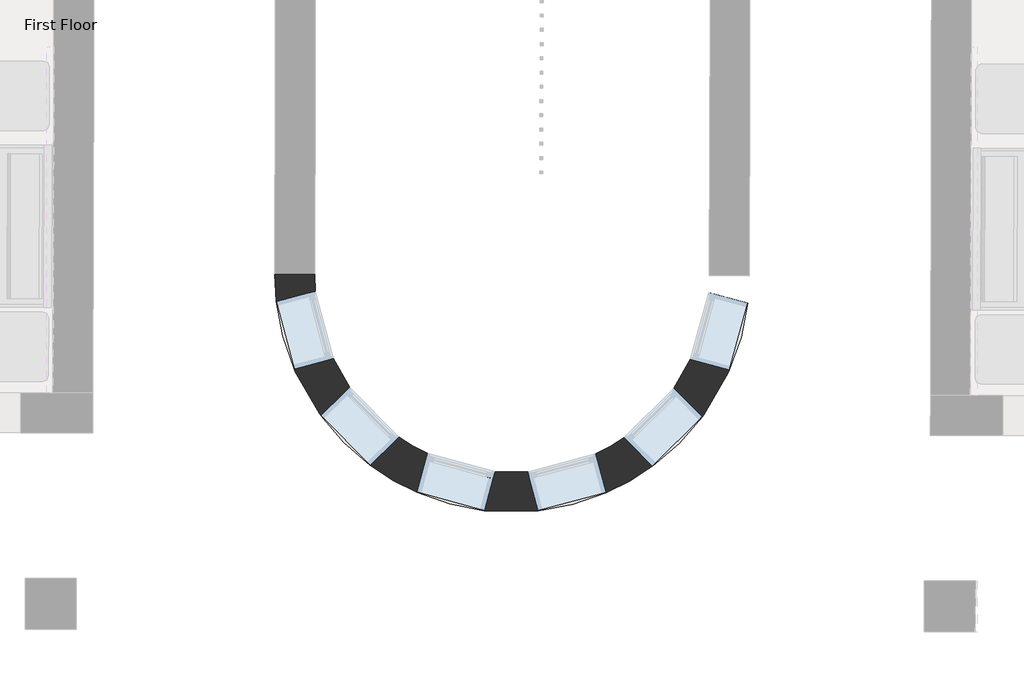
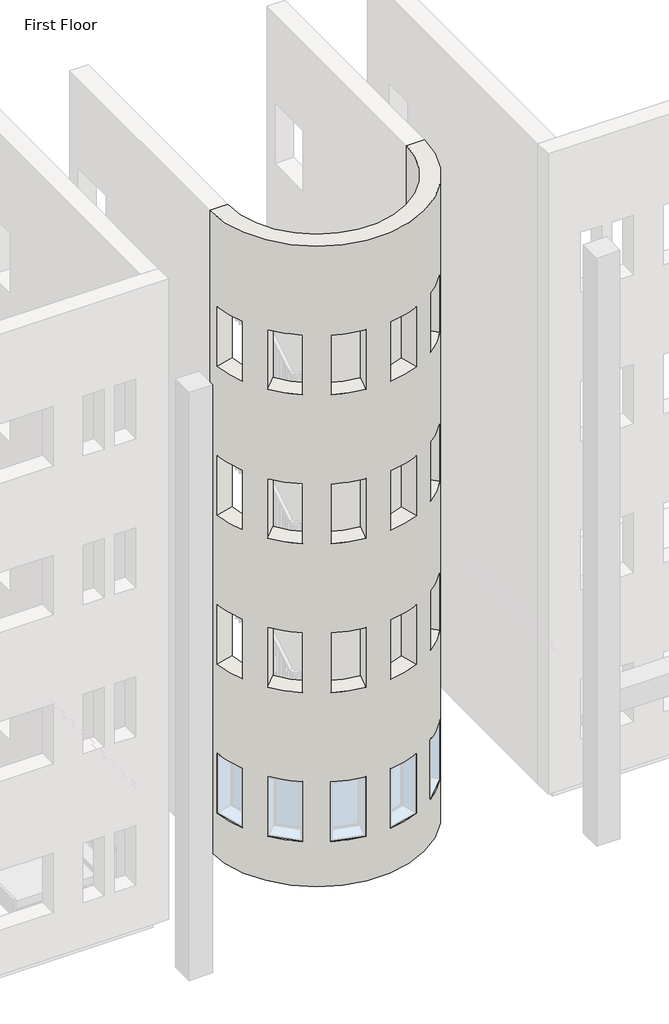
# One storey, part 2 of 23: 1 wall.
"""IFC4 building model written with IfcOpenShell, lengths in millimetres."""

from ifc_helpers import new_model, si_unit, frame, origin, place, context, project, spatial, polyline, circle_curve, element, save
from ifc_brep_helpers import plane_surface, cylinder_surface, revolved_surface, advanced_brep

model = new_model("IFC4")

# Units and contexts
model_context = context("Model", 3, world=origin())
ifc_project = project(units=[si_unit("LENGTHUNIT", "METRE", prefix="MILLI")], contexts=[model_context])

# Site, building, storey
site = spatial("IfcSite", under=ifc_project)
building = spatial("IfcBuilding", under=site)
storey = spatial("IfcBuildingStorey", under=building, Name="First Floor", Elevation=0.0)

# Wall
placement = place(None, origin())
element("IfcWall", 1, ObjectType="Exterior - Brick on Mtl. Stud", at=placement, inside=storey, context=model_context, shape_type="AdvancedBrep", body=[
    advanced_brep(
    [(-17288.0272981, -40737.1040895, 13107.0), (-20748.0128004, -40727.087895, 13107.0), (-21098.0113339, -40726.0746961, 13107.0), (-16938.0287647, -40738.1172884, 13107.0), (-20748.0128004, -40727.087895, 0.0), (-17288.0272981, -40737.1040895, 0.0), (-16938.0287647, -40738.1172884, 0.0), (-21098.0113339, -40726.0746961, 0.0), (-20586.0793709, -41462.9105815, 915.0), (-20586.0793709, -41462.9105815, 2135.0), (-20742.2526362, -40873.2412579, 2135.0), (-20742.2526362, -40873.2412579, 915.0), (-19169.1457103, -42455.482494, 915.0), (-19169.1457103, -42455.482494, 2135.0), (-19757.9009571, -42295.8978474, 2135.0), (-19757.9009571, -42295.8978474, 915.0), (-20010.5919618, -42149.0296528, 915.0), (-20010.5919618, -42149.0296528, 2135.0), (-20440.6766388, -41716.4476714, 2135.0), (-20440.6766388, -41716.4476714, 915.0), (-18033.6683701, -42154.7525818, 915.0), (-17601.0863887, -41724.6679048, 915.0), (-17601.0863887, -41724.6679048, 2135.0), (-18033.6683701, -42154.7525818, 2135.0), (-18876.8747836, -42456.3285792, 915.0), (-18287.20546, -42300.1553139, 915.0), (-18287.20546, -42300.1553139, 2135.0), (-18876.8747836, -42456.3285792, 2135.0), (-17454.2181941, -41471.9769001, 915.0), (-17294.6335475, -40883.2216533, 915.0), (-17294.6335475, -40883.2216533, 2135.0), (-17454.2181941, -41471.9769001, 2135.0), (-18033.6683701, -42154.7525818, 10059.0), (-17601.0863887, -41724.6679048, 10059.0), (-17601.0863887, -41724.6679048, 11279.0), (-18033.6683701, -42154.7525818, 11279.0), (-18876.8747836, -42456.3285792, 10059.0), (-18287.20546, -42300.1553139, 10059.0), (-18287.20546, -42300.1553139, 11279.0), (-18876.8747836, -42456.3285792, 11279.0), (-17454.2181941, -41471.9769001, 10059.0), (-17294.6335475, -40883.2216533, 10059.0), (-17294.6335475, -40883.2216533, 11279.0), (-17454.2181941, -41471.9769001, 11279.0), (-20010.5919618, -42149.0296528, 10059.0), (-20010.5919618, -42149.0296528, 11279.0), (-20440.6766388, -41716.4476714, 11279.0), (-20440.6766388, -41716.4476714, 10059.0), (-19169.1457103, -42455.482494, 10059.0), (-19169.1457103, -42455.482494, 11279.0), (-19757.9009571, -42295.8978474, 11279.0), (-19757.9009571, -42295.8978474, 10059.0), (-20586.0793709, -41462.9105815, 10059.0), (-20586.0793709, -41462.9105815, 11279.0), (-20742.2526362, -40873.2412579, 11279.0), (-20742.2526362, -40873.2412579, 10059.0), (-18033.6683701, -42154.7525818, 3963.0), (-17601.0863887, -41724.6679048, 3963.0), (-17601.0863887, -41724.6679048, 5183.0), (-18033.6683701, -42154.7525818, 5183.0), (-18876.8747836, -42456.3285792, 3963.0), (-18287.20546, -42300.1553139, 3963.0), (-18287.20546, -42300.1553139, 5183.0), (-18876.8747836, -42456.3285792, 5183.0), (-17454.2181941, -41471.9769001, 3963.0), (-17294.6335475, -40883.2216533, 3963.0), (-17294.6335475, -40883.2216533, 5183.0), (-17454.2181941, -41471.9769001, 5183.0), (-20010.5919618, -42149.0296528, 3963.0), (-20010.5919618, -42149.0296528, 5183.0), (-20440.6766388, -41716.4476714, 5183.0), (-20440.6766388, -41716.4476714, 3963.0), (-19169.1457103, -42455.482494, 3963.0), (-19169.1457103, -42455.482494, 5183.0), (-19757.9009571, -42295.8978474, 5183.0), (-19757.9009571, -42295.8978474, 3963.0), (-20586.0793709, -41462.9105815, 3963.0), (-20586.0793709, -41462.9105815, 5183.0), (-20742.2526362, -40873.2412579, 5183.0), (-20742.2526362, -40873.2412579, 3963.0), (-18033.6683701, -42154.7525818, 7011.0), (-17601.0863887, -41724.6679048, 7011.0), (-17601.0863887, -41724.6679048, 8231.0), (-18033.6683701, -42154.7525818, 8231.0), (-18876.8747836, -42456.3285792, 7011.0), (-18287.20546, -42300.1553139, 7011.0), (-18287.20546, -42300.1553139, 8231.0), (-18876.8747836, -42456.3285792, 8231.0), (-17454.2181941, -41471.9769001, 7011.0), (-17294.6335475, -40883.2216533, 7011.0), (-17294.6335475, -40883.2216533, 8231.0), (-17454.2181941, -41471.9769001, 8231.0), (-20010.5919618, -42149.0296528, 7011.0), (-20010.5919618, -42149.0296528, 8231.0), (-20440.6766388, -41716.4476714, 8231.0), (-20440.6766388, -41716.4476714, 7011.0), (-19169.1457103, -42455.482494, 7011.0), (-19169.1457103, -42455.482494, 8231.0), (-19757.9009571, -42295.8978474, 8231.0), (-19757.9009571, -42295.8978474, 7011.0), (-20586.0793709, -41462.9105815, 7011.0), (-20586.0793709, -41462.9105815, 8231.0), (-20742.2526362, -40873.2412579, 8231.0), (-20742.2526362, -40873.2412579, 7011.0), (-20928.8751952, -41553.6996748, 2135.0), (-20928.8751952, -41553.6996748, 915.0), (-21085.0484606, -40964.0303512, 915.0), (-21085.0484606, -40964.0303512, 2135.0), (-19261.9179613, -42797.7469329, 2135.0), (-19261.9179613, -42797.7469329, 915.0), (-19850.6732081, -42638.1622862, 915.0), (-19850.6732081, -42638.1622862, 2135.0), (-20262.0673073, -42399.0532261, 915.0), (-20692.1519843, -41966.4712447, 915.0), (-20692.1519843, -41966.4712447, 2135.0), (-20262.0673073, -42399.0532261, 2135.0), (-17783.6447968, -42406.2279273, 915.0), (-17783.6447968, -42406.2279273, 2135.0), (-17351.0628154, -41976.1432503, 2135.0), (-17351.0628154, -41976.1432503, 915.0), (-18786.0856903, -42799.1244036, 915.0), (-18786.0856903, -42799.1244036, 2135.0), (-18196.4163667, -42642.9511382, 2135.0), (-18196.4163667, -42642.9511382, 915.0), (-17111.9537553, -41564.749151, 915.0), (-17111.9537553, -41564.749151, 2135.0), (-16952.3691086, -40975.9939043, 2135.0), (-16952.3691086, -40975.9939043, 915.0), (-17783.6447968, -42406.2279273, 10059.0), (-17783.6447968, -42406.2279273, 11279.0), (-17351.0628154, -41976.1432503, 11279.0), (-17351.0628154, -41976.1432503, 10059.0), (-18786.0856903, -42799.1244036, 10059.0), (-18786.0856903, -42799.1244036, 11279.0), (-18196.4163667, -42642.9511382, 11279.0), (-18196.4163667, -42642.9511382, 10059.0), (-17111.9537553, -41564.749151, 10059.0), (-17111.9537553, -41564.749151, 11279.0), (-16952.3691086, -40975.9939043, 11279.0), (-16952.3691086, -40975.9939043, 10059.0), (-20262.0673073, -42399.0532261, 10059.0), (-20692.1519843, -41966.4712447, 10059.0), (-20692.1519843, -41966.4712447, 11279.0), (-20262.0673073, -42399.0532261, 11279.0), (-19261.9179613, -42797.7469329, 10059.0), (-19850.6732081, -42638.1622862, 10059.0), (-19850.6732081, -42638.1622862, 11279.0), (-19261.9179613, -42797.7469329, 11279.0), (-20928.8751952, -41553.6996748, 10059.0), (-21085.0484606, -40964.0303512, 10059.0), (-21085.0484606, -40964.0303512, 11279.0), (-20928.8751952, -41553.6996748, 11279.0), (-17783.6447968, -42406.2279273, 3963.0), (-17783.6447968, -42406.2279273, 5183.0), (-17351.0628154, -41976.1432503, 5183.0), (-17351.0628154, -41976.1432503, 3963.0), (-18786.0856903, -42799.1244036, 3963.0), (-18786.0856903, -42799.1244036, 5183.0), (-18196.4163667, -42642.9511382, 5183.0), (-18196.4163667, -42642.9511382, 3963.0), (-17111.9537553, -41564.749151, 3963.0), (-17111.9537553, -41564.749151, 5183.0), (-16952.3691086, -40975.9939043, 5183.0), (-16952.3691086, -40975.9939043, 3963.0), (-20262.0673073, -42399.0532261, 3963.0), (-20692.1519843, -41966.4712447, 3963.0), (-20692.1519843, -41966.4712447, 5183.0), (-20262.0673073, -42399.0532261, 5183.0), (-19261.9179613, -42797.7469329, 3963.0), (-19850.6732081, -42638.1622862, 3963.0), (-19850.6732081, -42638.1622862, 5183.0), (-19261.9179613, -42797.7469329, 5183.0), (-20928.8751952, -41553.6996748, 3963.0), (-21085.0484606, -40964.0303512, 3963.0), (-21085.0484606, -40964.0303512, 5183.0), (-20928.8751952, -41553.6996748, 5183.0), (-17783.6447968, -42406.2279273, 7011.0), (-17783.6447968, -42406.2279273, 8231.0), (-17351.0628154, -41976.1432503, 8231.0), (-17351.0628154, -41976.1432503, 7011.0), (-18786.0856903, -42799.1244036, 7011.0), (-18786.0856903, -42799.1244036, 8231.0), (-18196.4163667, -42642.9511382, 8231.0), (-18196.4163667, -42642.9511382, 7011.0), (-17111.9537553, -41564.749151, 7011.0), (-17111.9537553, -41564.749151, 8231.0), (-16952.3691086, -40975.9939043, 8231.0), (-16952.3691086, -40975.9939043, 7011.0), (-20262.0673073, -42399.0532261, 7011.0), (-20692.1519843, -41966.4712447, 7011.0), (-20692.1519843, -41966.4712447, 8231.0), (-20262.0673073, -42399.0532261, 8231.0), (-19261.9179613, -42797.7469329, 7011.0), (-19850.6732081, -42638.1622862, 7011.0), (-19850.6732081, -42638.1622862, 8231.0), (-19261.9179613, -42797.7469329, 8231.0), (-20928.8751952, -41553.6996748, 7011.0), (-21085.0484606, -40964.0303512, 7011.0), (-21085.0484606, -40964.0303512, 8231.0), (-20928.8751952, -41553.6996748, 8231.0)],
    [
        (0, 1, circle_curve(frame((-19018.0200493, -40732.0959922, 13107.0), z_axis=(0.0, 0.0, -1.0), x_axis=(0.9999958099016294, -0.0028948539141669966, 0.0)), 1730.0)),
        (1, 2),
        (2, 3, circle_curve(frame((-19018.0200493, -40732.0959922, 13107.0), z_axis=(0.0, 0.0, 1.0), x_axis=(0.9999958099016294, -0.0028948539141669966, 0.0)), 2080.0)),
        (3, 0),
        (4, 5, circle_curve(frame((-19018.0200493, -40732.0959922, 0.0), z_axis=(0.0, 0.0, 1.0), x_axis=(0.9999958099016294, -0.0028948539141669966, 0.0)), 1730.0)),
        (5, 6),
        (6, 7, circle_curve(frame((-19018.0200493, -40732.0959922, 0.0), z_axis=(0.0, 0.0, -1.0), x_axis=(0.9999958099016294, -0.0028948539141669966, 0.0)), 2080.0)),
        (7, 4),
        (0, 5),
        (4, 1),
        (8, 9),
        (9, 10, circle_curve(frame((-19018.0200493, -40732.0959922, 2135.0), z_axis=(0.0, 0.0, -1.0), x_axis=(0.9999958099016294, -0.0028948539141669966, 0.0)), 1730.0)),
        (10, 11),
        (11, 8, circle_curve(frame((-19018.0200493, -40732.0959922, 915.0), z_axis=(0.0, 0.0, 1.0), x_axis=(0.9999958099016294, -0.0028948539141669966, 0.0)), 1730.0)),
        (12, 13),
        (13, 14, circle_curve(frame((-19018.0200493, -40732.0959922, 2135.0), z_axis=(0.0, 0.0, -1.0), x_axis=(0.9999958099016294, -0.0028948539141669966, 0.0)), 1730.0)),
        (14, 15),
        (15, 12, circle_curve(frame((-19018.0200493, -40732.0959922, 915.0), z_axis=(0.0, 0.0, 1.0), x_axis=(0.9999958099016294, -0.0028948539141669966, 0.0)), 1730.0)),
        (16, 17),
        (17, 18, circle_curve(frame((-19018.0200493, -40732.0959922, 2135.0), z_axis=(0.0, 0.0, -1.0), x_axis=(0.9999958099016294, -0.0028948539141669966, 0.0)), 1730.0)),
        (18, 19),
        (19, 16, circle_curve(frame((-19018.0200493, -40732.0959922, 915.0), z_axis=(0.0, 0.0, 1.0), x_axis=(0.9999958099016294, -0.0028948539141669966, 0.0)), 1730.0)),
        (20, 21, circle_curve(frame((-19018.0200493, -40732.0959922, 915.0), z_axis=(0.0, 0.0, 1.0), x_axis=(0.9999958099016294, -0.0028948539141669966, 0.0)), 1730.0)),
        (21, 22),
        (22, 23, circle_curve(frame((-19018.0200493, -40732.0959922, 2135.0), z_axis=(0.0, 0.0, -1.0), x_axis=(0.9999958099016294, -0.0028948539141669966, 0.0)), 1730.0)),
        (23, 20),
        (24, 25, circle_curve(frame((-19018.0200493, -40732.0959922, 915.0), z_axis=(0.0, 0.0, 1.0), x_axis=(0.9999958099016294, -0.0028948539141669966, 0.0)), 1730.0)),
        (25, 26),
        (26, 27, circle_curve(frame((-19018.0200493, -40732.0959922, 2135.0), z_axis=(0.0, 0.0, -1.0), x_axis=(0.9999958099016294, -0.0028948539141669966, 0.0)), 1730.0)),
        (27, 24),
        (28, 29, circle_curve(frame((-19018.0200493, -40732.0959922, 915.0), z_axis=(0.0, 0.0, 1.0), x_axis=(0.9999958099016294, -0.0028948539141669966, 0.0)), 1730.0)),
        (29, 30),
        (30, 31, circle_curve(frame((-19018.0200493, -40732.0959922, 2135.0), z_axis=(0.0, 0.0, -1.0), x_axis=(0.9999958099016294, -0.0028948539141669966, 0.0)), 1730.0)),
        (31, 28),
        (32, 33, circle_curve(frame((-19018.0200493, -40732.0959922, 10059.0), z_axis=(0.0, 0.0, 1.0), x_axis=(0.9999958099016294, -0.0028948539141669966, 0.0)), 1730.0)),
        (33, 34),
        (34, 35, circle_curve(frame((-19018.0200493, -40732.0959922, 11279.0), z_axis=(0.0, 0.0, -1.0), x_axis=(0.9999958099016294, -0.0028948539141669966, 0.0)), 1730.0)),
        (35, 32),
        (36, 37, circle_curve(frame((-19018.0200493, -40732.0959922, 10059.0), z_axis=(0.0, 0.0, 1.0), x_axis=(0.9999958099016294, -0.0028948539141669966, 0.0)), 1730.0)),
        (37, 38),
        (38, 39, circle_curve(frame((-19018.0200493, -40732.0959922, 11279.0), z_axis=(0.0, 0.0, -1.0), x_axis=(0.9999958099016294, -0.0028948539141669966, 0.0)), 1730.0)),
        (39, 36),
        (40, 41, circle_curve(frame((-19018.0200493, -40732.0959922, 10059.0), z_axis=(0.0, 0.0, 1.0), x_axis=(0.9999958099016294, -0.0028948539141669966, 0.0)), 1730.0)),
        (41, 42),
        (42, 43, circle_curve(frame((-19018.0200493, -40732.0959922, 11279.0), z_axis=(0.0, 0.0, -1.0), x_axis=(0.9999958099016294, -0.0028948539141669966, 0.0)), 1730.0)),
        (43, 40),
        (44, 45),
        (45, 46, circle_curve(frame((-19018.0200493, -40732.0959922, 11279.0), z_axis=(0.0, 0.0, -1.0), x_axis=(0.9999958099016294, -0.0028948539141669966, 0.0)), 1730.0)),
        (46, 47),
        (47, 44, circle_curve(frame((-19018.0200493, -40732.0959922, 10059.0), z_axis=(0.0, 0.0, 1.0), x_axis=(0.9999958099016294, -0.0028948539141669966, 0.0)), 1730.0)),
        (48, 49),
        (49, 50, circle_curve(frame((-19018.0200493, -40732.0959922, 11279.0), z_axis=(0.0, 0.0, -1.0), x_axis=(0.9999958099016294, -0.0028948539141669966, 0.0)), 1730.0)),
        (50, 51),
        (51, 48, circle_curve(frame((-19018.0200493, -40732.0959922, 10059.0), z_axis=(0.0, 0.0, 1.0), x_axis=(0.9999958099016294, -0.0028948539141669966, 0.0)), 1730.0)),
        (52, 53),
        (53, 54, circle_curve(frame((-19018.0200493, -40732.0959922, 11279.0), z_axis=(0.0, 0.0, -1.0), x_axis=(0.9999958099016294, -0.0028948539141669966, 0.0)), 1730.0)),
        (54, 55),
        (55, 52, circle_curve(frame((-19018.0200493, -40732.0959922, 10059.0), z_axis=(0.0, 0.0, 1.0), x_axis=(0.9999958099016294, -0.0028948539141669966, 0.0)), 1730.0)),
        (56, 57, circle_curve(frame((-19018.0200493, -40732.0959922, 3963.0), z_axis=(0.0, 0.0, 1.0), x_axis=(0.9999958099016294, -0.0028948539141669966, 0.0)), 1730.0)),
        (57, 58),
        (58, 59, circle_curve(frame((-19018.0200493, -40732.0959922, 5183.0), z_axis=(0.0, 0.0, -1.0), x_axis=(0.9999958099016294, -0.0028948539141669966, 0.0)), 1730.0)),
        (59, 56),
        (60, 61, circle_curve(frame((-19018.0200493, -40732.0959922, 3963.0), z_axis=(0.0, 0.0, 1.0), x_axis=(0.9999958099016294, -0.0028948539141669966, 0.0)), 1730.0)),
        (61, 62),
        (62, 63, circle_curve(frame((-19018.0200493, -40732.0959922, 5183.0), z_axis=(0.0, 0.0, -1.0), x_axis=(0.9999958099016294, -0.0028948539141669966, 0.0)), 1730.0)),
        (63, 60),
        (64, 65, circle_curve(frame((-19018.0200493, -40732.0959922, 3963.0), z_axis=(0.0, 0.0, 1.0), x_axis=(0.9999958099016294, -0.0028948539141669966, 0.0)), 1730.0)),
        (65, 66),
        (66, 67, circle_curve(frame((-19018.0200493, -40732.0959922, 5183.0), z_axis=(0.0, 0.0, -1.0), x_axis=(0.9999958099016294, -0.0028948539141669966, 0.0)), 1730.0)),
        (67, 64),
        (68, 69),
        (69, 70, circle_curve(frame((-19018.0200493, -40732.0959922, 5183.0), z_axis=(0.0, 0.0, -1.0), x_axis=(0.9999958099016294, -0.0028948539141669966, 0.0)), 1730.0)),
        (70, 71),
        (71, 68, circle_curve(frame((-19018.0200493, -40732.0959922, 3963.0), z_axis=(0.0, 0.0, 1.0), x_axis=(0.9999958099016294, -0.0028948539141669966, 0.0)), 1730.0)),
        (72, 73),
        (73, 74, circle_curve(frame((-19018.0200493, -40732.0959922, 5183.0), z_axis=(0.0, 0.0, -1.0), x_axis=(0.9999958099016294, -0.0028948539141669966, 0.0)), 1730.0)),
        (74, 75),
        (75, 72, circle_curve(frame((-19018.0200493, -40732.0959922, 3963.0), z_axis=(0.0, 0.0, 1.0), x_axis=(0.9999958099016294, -0.0028948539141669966, 0.0)), 1730.0)),
        (76, 77),
        (77, 78, circle_curve(frame((-19018.0200493, -40732.0959922, 5183.0), z_axis=(0.0, 0.0, -1.0), x_axis=(0.9999958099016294, -0.0028948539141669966, 0.0)), 1730.0)),
        (78, 79),
        (79, 76, circle_curve(frame((-19018.0200493, -40732.0959922, 3963.0), z_axis=(0.0, 0.0, 1.0), x_axis=(0.9999958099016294, -0.0028948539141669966, 0.0)), 1730.0)),
        (80, 81, circle_curve(frame((-19018.0200493, -40732.0959922, 7011.0), z_axis=(0.0, 0.0, 1.0), x_axis=(0.9999958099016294, -0.0028948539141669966, 0.0)), 1730.0)),
        (81, 82),
        (82, 83, circle_curve(frame((-19018.0200493, -40732.0959922, 8231.0), z_axis=(0.0, 0.0, -1.0), x_axis=(0.9999958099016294, -0.0028948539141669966, 0.0)), 1730.0)),
        (83, 80),
        (84, 85, circle_curve(frame((-19018.0200493, -40732.0959922, 7011.0), z_axis=(0.0, 0.0, 1.0), x_axis=(0.9999958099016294, -0.0028948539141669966, 0.0)), 1730.0)),
        (85, 86),
        (86, 87, circle_curve(frame((-19018.0200493, -40732.0959922, 8231.0), z_axis=(0.0, 0.0, -1.0), x_axis=(0.9999958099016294, -0.0028948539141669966, 0.0)), 1730.0)),
        (87, 84),
        (88, 89, circle_curve(frame((-19018.0200493, -40732.0959922, 7011.0), z_axis=(0.0, 0.0, 1.0), x_axis=(0.9999958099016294, -0.0028948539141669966, 0.0)), 1730.0)),
        (89, 90),
        (90, 91, circle_curve(frame((-19018.0200493, -40732.0959922, 8231.0), z_axis=(0.0, 0.0, -1.0), x_axis=(0.9999958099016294, -0.0028948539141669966, 0.0)), 1730.0)),
        (91, 88),
        (92, 93),
        (93, 94, circle_curve(frame((-19018.0200493, -40732.0959922, 8231.0), z_axis=(0.0, 0.0, -1.0), x_axis=(0.9999958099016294, -0.0028948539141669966, 0.0)), 1730.0)),
        (94, 95),
        (95, 92, circle_curve(frame((-19018.0200493, -40732.0959922, 7011.0), z_axis=(0.0, 0.0, 1.0), x_axis=(0.9999958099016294, -0.0028948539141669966, 0.0)), 1730.0)),
        (96, 97),
        (97, 98, circle_curve(frame((-19018.0200493, -40732.0959922, 8231.0), z_axis=(0.0, 0.0, -1.0), x_axis=(0.9999958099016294, -0.0028948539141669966, 0.0)), 1730.0)),
        (98, 99),
        (99, 96, circle_curve(frame((-19018.0200493, -40732.0959922, 7011.0), z_axis=(0.0, 0.0, 1.0), x_axis=(0.9999958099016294, -0.0028948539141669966, 0.0)), 1730.0)),
        (100, 101),
        (101, 102, circle_curve(frame((-19018.0200493, -40732.0959922, 8231.0), z_axis=(0.0, 0.0, -1.0), x_axis=(0.9999958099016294, -0.0028948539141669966, 0.0)), 1730.0)),
        (102, 103),
        (103, 100, circle_curve(frame((-19018.0200493, -40732.0959922, 7011.0), z_axis=(0.0, 0.0, 1.0), x_axis=(0.9999958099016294, -0.0028948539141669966, 0.0)), 1730.0)),
        (7, 2),
        (6, 3),
        (104, 105),
        (105, 106, circle_curve(frame((-19018.0200493, -40732.0959922, 915.0), z_axis=(0.0, 0.0, -1.0), x_axis=(0.9999958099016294, -0.0028948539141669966, 0.0)), 2080.0)),
        (106, 107),
        (107, 104, circle_curve(frame((-19018.0200493, -40732.0959922, 2135.0), z_axis=(0.0, 0.0, 1.0), x_axis=(0.9999958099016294, -0.0028948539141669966, 0.0)), 2080.0)),
        (108, 109),
        (109, 110, circle_curve(frame((-19018.0200493, -40732.0959922, 915.0), z_axis=(0.0, 0.0, -1.0), x_axis=(0.9999958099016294, -0.0028948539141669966, 0.0)), 2080.0)),
        (110, 111),
        (111, 108, circle_curve(frame((-19018.0200493, -40732.0959922, 2135.0), z_axis=(0.0, 0.0, 1.0), x_axis=(0.9999958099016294, -0.0028948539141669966, 0.0)), 2080.0)),
        (112, 113, circle_curve(frame((-19018.0200493, -40732.0959922, 915.0), z_axis=(0.0, 0.0, -1.0), x_axis=(0.9999958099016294, -0.0028948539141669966, 0.0)), 2080.0)),
        (113, 114),
        (114, 115, circle_curve(frame((-19018.0200493, -40732.0959922, 2135.0), z_axis=(0.0, 0.0, 1.0), x_axis=(0.9999958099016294, -0.0028948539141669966, 0.0)), 2080.0)),
        (115, 112),
        (116, 117),
        (117, 118, circle_curve(frame((-19018.0200493, -40732.0959922, 2135.0), z_axis=(0.0, 0.0, 1.0), x_axis=(0.9999958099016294, -0.0028948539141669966, 0.0)), 2080.0)),
        (118, 119),
        (119, 116, circle_curve(frame((-19018.0200493, -40732.0959922, 915.0), z_axis=(0.0, 0.0, -1.0), x_axis=(0.9999958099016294, -0.0028948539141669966, 0.0)), 2080.0)),
        (120, 121),
        (121, 122, circle_curve(frame((-19018.0200493, -40732.0959922, 2135.0), z_axis=(0.0, 0.0, 1.0), x_axis=(0.9999958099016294, -0.0028948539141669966, 0.0)), 2080.0)),
        (122, 123),
        (123, 120, circle_curve(frame((-19018.0200493, -40732.0959922, 915.0), z_axis=(0.0, 0.0, -1.0), x_axis=(0.9999958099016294, -0.0028948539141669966, 0.0)), 2080.0)),
        (124, 125),
        (125, 126, circle_curve(frame((-19018.0200493, -40732.0959922, 2135.0), z_axis=(0.0, 0.0, 1.0), x_axis=(0.9999958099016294, -0.0028948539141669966, 0.0)), 2080.0)),
        (126, 127),
        (127, 124, circle_curve(frame((-19018.0200493, -40732.0959922, 915.0), z_axis=(0.0, 0.0, -1.0), x_axis=(0.9999958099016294, -0.0028948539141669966, 0.0)), 2080.0)),
        (128, 129),
        (129, 130, circle_curve(frame((-19018.0200493, -40732.0959922, 11279.0), z_axis=(0.0, 0.0, 1.0), x_axis=(0.9999958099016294, -0.0028948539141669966, 0.0)), 2080.0)),
        (130, 131),
        (131, 128, circle_curve(frame((-19018.0200493, -40732.0959922, 10059.0), z_axis=(0.0, 0.0, -1.0), x_axis=(0.9999958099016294, -0.0028948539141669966, 0.0)), 2080.0)),
        (132, 133),
        (133, 134, circle_curve(frame((-19018.0200493, -40732.0959922, 11279.0), z_axis=(0.0, 0.0, 1.0), x_axis=(0.9999958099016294, -0.0028948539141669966, 0.0)), 2080.0)),
        (134, 135),
        (135, 132, circle_curve(frame((-19018.0200493, -40732.0959922, 10059.0), z_axis=(0.0, 0.0, -1.0), x_axis=(0.9999958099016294, -0.0028948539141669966, 0.0)), 2080.0)),
        (136, 137),
        (137, 138, circle_curve(frame((-19018.0200493, -40732.0959922, 11279.0), z_axis=(0.0, 0.0, 1.0), x_axis=(0.9999958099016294, -0.0028948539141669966, 0.0)), 2080.0)),
        (138, 139),
        (139, 136, circle_curve(frame((-19018.0200493, -40732.0959922, 10059.0), z_axis=(0.0, 0.0, -1.0), x_axis=(0.9999958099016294, -0.0028948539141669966, 0.0)), 2080.0)),
        (140, 141, circle_curve(frame((-19018.0200493, -40732.0959922, 10059.0), z_axis=(0.0, 0.0, -1.0), x_axis=(0.9999958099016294, -0.0028948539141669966, 0.0)), 2080.0)),
        (141, 142),
        (142, 143, circle_curve(frame((-19018.0200493, -40732.0959922, 11279.0), z_axis=(0.0, 0.0, 1.0), x_axis=(0.9999958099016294, -0.0028948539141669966, 0.0)), 2080.0)),
        (143, 140),
        (144, 145, circle_curve(frame((-19018.0200493, -40732.0959922, 10059.0), z_axis=(0.0, 0.0, -1.0), x_axis=(0.9999958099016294, -0.0028948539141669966, 0.0)), 2080.0)),
        (145, 146),
        (146, 147, circle_curve(frame((-19018.0200493, -40732.0959922, 11279.0), z_axis=(0.0, 0.0, 1.0), x_axis=(0.9999958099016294, -0.0028948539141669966, 0.0)), 2080.0)),
        (147, 144),
        (148, 149, circle_curve(frame((-19018.0200493, -40732.0959922, 10059.0), z_axis=(0.0, 0.0, -1.0), x_axis=(0.9999958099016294, -0.0028948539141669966, 0.0)), 2080.0)),
        (149, 150),
        (150, 151, circle_curve(frame((-19018.0200493, -40732.0959922, 11279.0), z_axis=(0.0, 0.0, 1.0), x_axis=(0.9999958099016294, -0.0028948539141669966, 0.0)), 2080.0)),
        (151, 148),
        (152, 153),
        (153, 154, circle_curve(frame((-19018.0200493, -40732.0959922, 5183.0), z_axis=(0.0, 0.0, 1.0), x_axis=(0.9999958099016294, -0.0028948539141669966, 0.0)), 2080.0)),
        (154, 155),
        (155, 152, circle_curve(frame((-19018.0200493, -40732.0959922, 3963.0), z_axis=(0.0, 0.0, -1.0), x_axis=(0.9999958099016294, -0.0028948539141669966, 0.0)), 2080.0)),
        (156, 157),
        (157, 158, circle_curve(frame((-19018.0200493, -40732.0959922, 5183.0), z_axis=(0.0, 0.0, 1.0), x_axis=(0.9999958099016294, -0.0028948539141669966, 0.0)), 2080.0)),
        (158, 159),
        (159, 156, circle_curve(frame((-19018.0200493, -40732.0959922, 3963.0), z_axis=(0.0, 0.0, -1.0), x_axis=(0.9999958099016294, -0.0028948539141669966, 0.0)), 2080.0)),
        (160, 161),
        (161, 162, circle_curve(frame((-19018.0200493, -40732.0959922, 5183.0), z_axis=(0.0, 0.0, 1.0), x_axis=(0.9999958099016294, -0.0028948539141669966, 0.0)), 2080.0)),
        (162, 163),
        (163, 160, circle_curve(frame((-19018.0200493, -40732.0959922, 3963.0), z_axis=(0.0, 0.0, -1.0), x_axis=(0.9999958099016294, -0.0028948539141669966, 0.0)), 2080.0)),
        (164, 165, circle_curve(frame((-19018.0200493, -40732.0959922, 3963.0), z_axis=(0.0, 0.0, -1.0), x_axis=(0.9999958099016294, -0.0028948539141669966, 0.0)), 2080.0)),
        (165, 166),
        (166, 167, circle_curve(frame((-19018.0200493, -40732.0959922, 5183.0), z_axis=(0.0, 0.0, 1.0), x_axis=(0.9999958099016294, -0.0028948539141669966, 0.0)), 2080.0)),
        (167, 164),
        (168, 169, circle_curve(frame((-19018.0200493, -40732.0959922, 3963.0), z_axis=(0.0, 0.0, -1.0), x_axis=(0.9999958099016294, -0.0028948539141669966, 0.0)), 2080.0)),
        (169, 170),
        (170, 171, circle_curve(frame((-19018.0200493, -40732.0959922, 5183.0), z_axis=(0.0, 0.0, 1.0), x_axis=(0.9999958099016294, -0.0028948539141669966, 0.0)), 2080.0)),
        (171, 168),
        (172, 173, circle_curve(frame((-19018.0200493, -40732.0959922, 3963.0), z_axis=(0.0, 0.0, -1.0), x_axis=(0.9999958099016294, -0.0028948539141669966, 0.0)), 2080.0)),
        (173, 174),
        (174, 175, circle_curve(frame((-19018.0200493, -40732.0959922, 5183.0), z_axis=(0.0, 0.0, 1.0), x_axis=(0.9999958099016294, -0.0028948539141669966, 0.0)), 2080.0)),
        (175, 172),
        (176, 177),
        (177, 178, circle_curve(frame((-19018.0200493, -40732.0959922, 8231.0), z_axis=(0.0, 0.0, 1.0), x_axis=(0.9999958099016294, -0.0028948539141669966, 0.0)), 2080.0)),
        (178, 179),
        (179, 176, circle_curve(frame((-19018.0200493, -40732.0959922, 7011.0), z_axis=(0.0, 0.0, -1.0), x_axis=(0.9999958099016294, -0.0028948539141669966, 0.0)), 2080.0)),
        (180, 181),
        (181, 182, circle_curve(frame((-19018.0200493, -40732.0959922, 8231.0), z_axis=(0.0, 0.0, 1.0), x_axis=(0.9999958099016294, -0.0028948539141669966, 0.0)), 2080.0)),
        (182, 183),
        (183, 180, circle_curve(frame((-19018.0200493, -40732.0959922, 7011.0), z_axis=(0.0, 0.0, -1.0), x_axis=(0.9999958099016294, -0.0028948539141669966, 0.0)), 2080.0)),
        (184, 185),
        (185, 186, circle_curve(frame((-19018.0200493, -40732.0959922, 8231.0), z_axis=(0.0, 0.0, 1.0), x_axis=(0.9999958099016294, -0.0028948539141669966, 0.0)), 2080.0)),
        (186, 187),
        (187, 184, circle_curve(frame((-19018.0200493, -40732.0959922, 7011.0), z_axis=(0.0, 0.0, -1.0), x_axis=(0.9999958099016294, -0.0028948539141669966, 0.0)), 2080.0)),
        (188, 189, circle_curve(frame((-19018.0200493, -40732.0959922, 7011.0), z_axis=(0.0, 0.0, -1.0), x_axis=(0.9999958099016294, -0.0028948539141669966, 0.0)), 2080.0)),
        (189, 190),
        (190, 191, circle_curve(frame((-19018.0200493, -40732.0959922, 8231.0), z_axis=(0.0, 0.0, 1.0), x_axis=(0.9999958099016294, -0.0028948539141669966, 0.0)), 2080.0)),
        (191, 188),
        (192, 193, circle_curve(frame((-19018.0200493, -40732.0959922, 7011.0), z_axis=(0.0, 0.0, -1.0), x_axis=(0.9999958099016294, -0.0028948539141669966, 0.0)), 2080.0)),
        (193, 194),
        (194, 195, circle_curve(frame((-19018.0200493, -40732.0959922, 8231.0), z_axis=(0.0, 0.0, 1.0), x_axis=(0.9999958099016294, -0.0028948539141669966, 0.0)), 2080.0)),
        (195, 192),
        (196, 197, circle_curve(frame((-19018.0200493, -40732.0959922, 7011.0), z_axis=(0.0, 0.0, -1.0), x_axis=(0.9999958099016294, -0.0028948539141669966, 0.0)), 2080.0)),
        (197, 198),
        (198, 199, circle_curve(frame((-19018.0200493, -40732.0959922, 8231.0), z_axis=(0.0, 0.0, 1.0), x_axis=(0.9999958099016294, -0.0028948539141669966, 0.0)), 2080.0)),
        (199, 196),
        (8, 105),
        (104, 9),
        (107, 10),
        (106, 11),
        (12, 109),
        (108, 13),
        (111, 14),
        (110, 15),
        (16, 112),
        (115, 17),
        (114, 18),
        (113, 19),
        (116, 20),
        (23, 117),
        (22, 118),
        (21, 119),
        (120, 24),
        (27, 121),
        (26, 122),
        (25, 123),
        (124, 28),
        (31, 125),
        (30, 126),
        (29, 127),
        (128, 32),
        (35, 129),
        (34, 130),
        (33, 131),
        (132, 36),
        (39, 133),
        (38, 134),
        (37, 135),
        (136, 40),
        (43, 137),
        (42, 138),
        (41, 139),
        (44, 140),
        (143, 45),
        (142, 46),
        (141, 47),
        (48, 144),
        (147, 49),
        (146, 50),
        (145, 51),
        (52, 148),
        (151, 53),
        (150, 54),
        (149, 55),
        (152, 56),
        (59, 153),
        (58, 154),
        (57, 155),
        (156, 60),
        (63, 157),
        (62, 158),
        (61, 159),
        (160, 64),
        (67, 161),
        (66, 162),
        (65, 163),
        (68, 164),
        (167, 69),
        (166, 70),
        (165, 71),
        (72, 168),
        (171, 73),
        (170, 74),
        (169, 75),
        (76, 172),
        (175, 77),
        (174, 78),
        (173, 79),
        (176, 80),
        (83, 177),
        (82, 178),
        (81, 179),
        (180, 84),
        (87, 181),
        (86, 182),
        (85, 183),
        (184, 88),
        (91, 185),
        (90, 186),
        (89, 187),
        (92, 188),
        (191, 93),
        (190, 94),
        (189, 95),
        (96, 192),
        (195, 97),
        (194, 98),
        (193, 99),
        (100, 196),
        (199, 101),
        (198, 102),
        (197, 103),
    ],
    [
        plane_surface(frame((-17288.0272981, -40737.1040895, 13107.0), z_axis=(0.0, 0.0, 1.0000000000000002), x_axis=(-0.0028948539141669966, -0.9999958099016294, 0.0))),
        plane_surface(frame((-17288.0272981, -40737.1040895, 0.0), z_axis=(0.0, 0.0, -1.0000000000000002), x_axis=(0.0028948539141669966, 0.9999958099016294, 0.0))),
        revolved_surface(polyline([(-17288.027298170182, -40737.104089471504, 0.0), (-17288.027298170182, -40737.104089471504, 13107.0)]), (-19018.0200493, -40732.0959922, 0.0), (0.0, 0.0, -1.0)),
        plane_surface(frame((-20748.0128004, -40727.087895, 13107.0), z_axis=(0.0028948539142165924, 0.9999958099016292, 0.0), x_axis=(0.0, 0.0, -1.0))),
        cylinder_surface(frame((-19018.0200493, -40732.0959922, 0.0), z_axis=(0.0, 0.0, 1.0), x_axis=(0.9999958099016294, -0.0028948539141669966, 0.0)), 2080.0),
        plane_surface(frame((-16938.0287647, -40738.1172884, 13107.0), z_axis=(0.0028948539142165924, 0.9999958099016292, 0.0), x_axis=(0.0, 0.0, -1.0))),
        plane_surface(frame((-20586.0793709, -41462.9105815, 915.0), z_axis=(-0.2560217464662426, 0.9666710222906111, 0.0), x_axis=(-0.9666710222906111, -0.2560217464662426, 0.0))),
        plane_surface(frame((-20586.0793709, -41462.9105815, 2135.0), z_axis=(0.0, 0.0, -1.0), x_axis=(-0.9666710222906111, -0.2560217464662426, 0.0))),
        plane_surface(frame((-20742.2526362, -40873.2412579, 2135.0), z_axis=(0.25602174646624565, -0.9666710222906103, 0.0), x_axis=(-0.9666710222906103, -0.25602174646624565, 0.0))),
        plane_surface(frame((-20742.2526362, -40873.2412579, 915.0), z_axis=(0.0, 0.0, 1.0000000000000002), x_axis=(-0.9666710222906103, -0.25602174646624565, 0.0))),
        plane_surface(frame((-19659.4106739, -44264.2158258, 915.0), z_axis=(-0.9651725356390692, 0.26161417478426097, 0.0), x_axis=(0.26161417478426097, 0.9651725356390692, 0.0))),
        plane_surface(frame((-19659.4106739, -44264.2158258, 2135.0), z_axis=(0.0, 0.0, -1.0000000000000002), x_axis=(0.26161417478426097, 0.9651725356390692, 0.0))),
        plane_surface(frame((-20248.1659206, -44104.6311792, 2135.0), z_axis=(0.9651725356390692, -0.26161417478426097, 0.0), x_axis=(0.26161417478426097, 0.9651725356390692, 0.0))),
        plane_surface(frame((-20248.1659206, -44104.6311792, 915.0), z_axis=(0.0, 0.0, 1.0000000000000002), x_axis=(0.26161417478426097, 0.9651725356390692, 0.0))),
        plane_surface(frame((-20010.5919618, -42149.0296528, 915.0), z_axis=(-0.7050568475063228, 0.7091507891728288, 0.0), x_axis=(-0.7091507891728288, -0.7050568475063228, 0.0))),
        plane_surface(frame((-20010.5919618, -42149.0296528, 2135.0), z_axis=(0.0, 0.0, -1.0), x_axis=(-0.709150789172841, -0.7050568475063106, 0.0))),
        plane_surface(frame((-20440.6766388, -41716.4476714, 2135.0), z_axis=(0.7050568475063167, -0.709150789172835, 0.0), x_axis=(-0.709150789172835, -0.7050568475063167, 0.0))),
        plane_surface(frame((-20440.6766388, -41716.4476714, 915.0), z_axis=(0.0, 0.0, 1.0000000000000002), x_axis=(-0.709150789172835, -0.7050568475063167, 0.0))),
        plane_surface(frame((-17783.6447968, -42406.2279273, 915.0), z_axis=(0.7091507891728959, 0.7050568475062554, 0.0), x_axis=(-0.7050568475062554, 0.7091507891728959, 0.0))),
        plane_surface(frame((-17783.6447968, -42406.2279273, 2135.0), z_axis=(0.0, 0.0, -1.0), x_axis=(-0.7050568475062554, 0.7091507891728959, 0.0))),
        plane_surface(frame((-17351.0628154, -41976.1432503, 2135.0), z_axis=(-0.709150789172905, -0.7050568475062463, 0.0), x_axis=(-0.7050568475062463, 0.709150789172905, 0.0))),
        plane_surface(frame((-17351.0628154, -41976.1432503, 915.0), z_axis=(0.0, 0.0, 1.0000000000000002), x_axis=(-0.7050568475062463, 0.709150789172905, 0.0))),
        plane_surface(frame((-18786.0856903, -42799.1244036, 915.0), z_axis=(0.9666710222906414, 0.25602174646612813, 0.0), x_axis=(-0.25602174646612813, 0.9666710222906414, 0.0))),
        plane_surface(frame((-18786.0856903, -42799.1244036, 2135.0), z_axis=(0.0, 0.0, -1.0), x_axis=(-0.25602174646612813, 0.9666710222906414, 0.0))),
        plane_surface(frame((-18196.4163667, -42642.9511382, 2135.0), z_axis=(-0.96667102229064, -0.25602174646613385, 0.0), x_axis=(-0.25602174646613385, 0.96667102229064, 0.0))),
        plane_surface(frame((-18196.4163667, -42642.9511382, 915.0), z_axis=(0.0, 0.0, 1.0000000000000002), x_axis=(-0.25602174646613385, 0.96667102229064, 0.0))),
        plane_surface(frame((-17111.9537553, -41564.749151, 915.0), z_axis=(0.2616141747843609, 0.9651725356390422, 0.0), x_axis=(-0.9651725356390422, 0.2616141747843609, 0.0))),
        plane_surface(frame((-17111.9537553, -41564.749151, 2135.0), z_axis=(0.0, 0.0, -1.0), x_axis=(-0.9651725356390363, 0.26161417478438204, 0.0))),
        plane_surface(frame((-16952.3691086, -40975.9939043, 2135.0), z_axis=(-0.26161417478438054, -0.9651725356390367, 0.0), x_axis=(-0.9651725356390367, 0.26161417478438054, 0.0))),
        plane_surface(frame((-16952.3691086, -40975.9939043, 915.0), z_axis=(0.0, 0.0, 1.0), x_axis=(-0.9651725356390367, 0.26161417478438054, 0.0))),
        plane_surface(frame((-17783.6447968, -42406.2279273, 10059.0), z_axis=(0.709150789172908, 0.7050568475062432, 0.0), x_axis=(-0.7050568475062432, 0.709150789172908, 0.0))),
        plane_surface(frame((-17783.6447968, -42406.2279273, 11279.0), z_axis=(0.0, 0.0, -1.0), x_axis=(-0.7050568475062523, 0.7091507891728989, 0.0))),
        plane_surface(frame((-17351.0628154, -41976.1432503, 11279.0), z_axis=(-0.709150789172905, -0.7050568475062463, 0.0), x_axis=(-0.7050568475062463, 0.709150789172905, 0.0))),
        plane_surface(frame((-17351.0628154, -41976.1432503, 10059.0), z_axis=(0.0, 0.0, 1.0000000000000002), x_axis=(-0.7050568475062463, 0.709150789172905, 0.0))),
        plane_surface(frame((-18786.0856903, -42799.1244036, 10059.0), z_axis=(0.966671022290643, 0.25602174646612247, 0.0), x_axis=(-0.25602174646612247, 0.966671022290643, 0.0))),
        plane_surface(frame((-18786.0856903, -42799.1244036, 11279.0), z_axis=(0.0, 0.0, -1.0000000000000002), x_axis=(-0.25602174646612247, 0.966671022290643, 0.0))),
        plane_surface(frame((-18196.4163667, -42642.9511382, 11279.0), z_axis=(-0.966671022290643, -0.25602174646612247, 0.0), x_axis=(-0.25602174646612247, 0.966671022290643, 0.0))),
        plane_surface(frame((-18196.4163667, -42642.9511382, 10059.0), z_axis=(0.0, 0.0, 1.0000000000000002), x_axis=(-0.25602174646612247, 0.966671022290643, 0.0))),
        plane_surface(frame((-17111.9537553, -41564.749151, 10059.0), z_axis=(0.26161417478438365, 0.9651725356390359, 0.0), x_axis=(-0.9651725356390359, 0.26161417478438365, 0.0))),
        plane_surface(frame((-17111.9537553, -41564.749151, 11279.0), z_axis=(0.0, 0.0, -1.0000000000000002), x_axis=(-0.9651725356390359, 0.26161417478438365, 0.0))),
        plane_surface(frame((-16952.3691086, -40975.9939043, 11279.0), z_axis=(-0.26161417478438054, -0.9651725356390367, 0.0), x_axis=(-0.9651725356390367, 0.26161417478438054, 0.0))),
        plane_surface(frame((-16952.3691086, -40975.9939043, 10059.0), z_axis=(0.0, 0.0, 1.0), x_axis=(-0.9651725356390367, 0.26161417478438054, 0.0))),
        plane_surface(frame((-20010.5919618, -42149.0296528, 10059.0), z_axis=(-0.7050568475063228, 0.7091507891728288, 0.0), x_axis=(-0.7091507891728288, -0.7050568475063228, 0.0))),
        plane_surface(frame((-20010.5919618, -42149.0296528, 11279.0), z_axis=(0.0, 0.0, -1.0), x_axis=(-0.7091507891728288, -0.7050568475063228, 0.0))),
        plane_surface(frame((-20440.6766388, -41716.4476714, 11279.0), z_axis=(0.7050568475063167, -0.709150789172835, 0.0), x_axis=(-0.709150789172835, -0.7050568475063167, 0.0))),
        plane_surface(frame((-20440.6766388, -41716.4476714, 10059.0), z_axis=(0.0, 0.0, 1.0000000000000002), x_axis=(-0.709150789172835, -0.7050568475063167, 0.0))),
        plane_surface(frame((-19169.1457103, -42455.482494, 10059.0), z_axis=(-0.9651725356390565, 0.26161417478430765, 0.0), x_axis=(-0.26161417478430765, -0.9651725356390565, 0.0))),
        plane_surface(frame((-19169.1457103, -42455.482494, 11279.0), z_axis=(0.0, 0.0, -1.0000000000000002), x_axis=(-0.261614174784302, -0.9651725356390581, 0.0))),
        plane_surface(frame((-19757.9009571, -42295.8978474, 11279.0), z_axis=(0.9651725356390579, -0.26161417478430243, 0.0), x_axis=(-0.26161417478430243, -0.9651725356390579, 0.0))),
        plane_surface(frame((-19757.9009571, -42295.8978474, 10059.0), z_axis=(0.0, 0.0, 1.0), x_axis=(-0.26161417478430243, -0.9651725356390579, 0.0))),
        plane_surface(frame((-20586.0793709, -41462.9105815, 10059.0), z_axis=(-0.2560217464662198, 0.9666710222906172, 0.0), x_axis=(-0.9666710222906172, -0.2560217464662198, 0.0))),
        plane_surface(frame((-20586.0793709, -41462.9105815, 11279.0), z_axis=(0.0, 0.0, -1.0000000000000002), x_axis=(-0.9666710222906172, -0.2560217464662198, 0.0))),
        plane_surface(frame((-20742.2526362, -40873.2412579, 11279.0), z_axis=(0.2560217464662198, -0.9666710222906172, 0.0), x_axis=(-0.9666710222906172, -0.2560217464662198, 0.0))),
        plane_surface(frame((-20742.2526362, -40873.2412579, 10059.0), z_axis=(0.0, 0.0, 1.0000000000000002), x_axis=(-0.9666710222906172, -0.2560217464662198, 0.0))),
        plane_surface(frame((-17783.6447968, -42406.2279273, 3963.0), z_axis=(0.709150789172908, 0.7050568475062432, 0.0), x_axis=(-0.7050568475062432, 0.709150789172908, 0.0))),
        plane_surface(frame((-17783.6447968, -42406.2279273, 5183.0), z_axis=(0.0, 0.0, -1.0), x_axis=(-0.7050568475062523, 0.7091507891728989, 0.0))),
        plane_surface(frame((-17351.0628154, -41976.1432503, 5183.0), z_axis=(-0.709150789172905, -0.7050568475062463, 0.0), x_axis=(-0.7050568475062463, 0.709150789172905, 0.0))),
        plane_surface(frame((-17351.0628154, -41976.1432503, 3963.0), z_axis=(0.0, 0.0, 1.0000000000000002), x_axis=(-0.7050568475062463, 0.709150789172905, 0.0))),
        plane_surface(frame((-18786.0856903, -42799.1244036, 3963.0), z_axis=(0.966671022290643, 0.25602174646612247, 0.0), x_axis=(-0.25602174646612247, 0.966671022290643, 0.0))),
        plane_surface(frame((-18786.0856903, -42799.1244036, 5183.0), z_axis=(0.0, 0.0, -1.0000000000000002), x_axis=(-0.25602174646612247, 0.966671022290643, 0.0))),
        plane_surface(frame((-18196.4163667, -42642.9511382, 5183.0), z_axis=(-0.966671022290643, -0.25602174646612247, 0.0), x_axis=(-0.25602174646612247, 0.966671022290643, 0.0))),
        plane_surface(frame((-18196.4163667, -42642.9511382, 3963.0), z_axis=(0.0, 0.0, 1.0000000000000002), x_axis=(-0.25602174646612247, 0.966671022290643, 0.0))),
        plane_surface(frame((-17111.9537553, -41564.749151, 3963.0), z_axis=(0.26161417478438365, 0.9651725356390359, 0.0), x_axis=(-0.9651725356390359, 0.26161417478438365, 0.0))),
        plane_surface(frame((-17111.9537553, -41564.749151, 5183.0), z_axis=(0.0, 0.0, -1.0000000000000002), x_axis=(-0.9651725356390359, 0.26161417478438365, 0.0))),
        plane_surface(frame((-16952.3691086, -40975.9939043, 5183.0), z_axis=(-0.26161417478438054, -0.9651725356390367, 0.0), x_axis=(-0.9651725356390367, 0.26161417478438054, 0.0))),
        plane_surface(frame((-16952.3691086, -40975.9939043, 3963.0), z_axis=(0.0, 0.0, 1.0), x_axis=(-0.9651725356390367, 0.26161417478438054, 0.0))),
        plane_surface(frame((-20010.5919618, -42149.0296528, 3963.0), z_axis=(-0.7050568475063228, 0.7091507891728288, 0.0), x_axis=(-0.7091507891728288, -0.7050568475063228, 0.0))),
        plane_surface(frame((-20010.5919618, -42149.0296528, 5183.0), z_axis=(0.0, 0.0, -1.0), x_axis=(-0.7091507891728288, -0.7050568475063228, 0.0))),
        plane_surface(frame((-20440.6766388, -41716.4476714, 5183.0), z_axis=(0.7050568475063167, -0.709150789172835, 0.0), x_axis=(-0.709150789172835, -0.7050568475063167, 0.0))),
        plane_surface(frame((-20440.6766388, -41716.4476714, 3963.0), z_axis=(0.0, 0.0, 1.0000000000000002), x_axis=(-0.709150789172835, -0.7050568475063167, 0.0))),
        plane_surface(frame((-19169.1457103, -42455.482494, 3963.0), z_axis=(-0.9651725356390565, 0.26161417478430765, 0.0), x_axis=(-0.26161417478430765, -0.9651725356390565, 0.0))),
        plane_surface(frame((-19169.1457103, -42455.482494, 5183.0), z_axis=(0.0, 0.0, -1.0000000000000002), x_axis=(-0.261614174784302, -0.9651725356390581, 0.0))),
        plane_surface(frame((-19757.9009571, -42295.8978474, 5183.0), z_axis=(0.9651725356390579, -0.26161417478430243, 0.0), x_axis=(-0.26161417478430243, -0.9651725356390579, 0.0))),
        plane_surface(frame((-19757.9009571, -42295.8978474, 3963.0), z_axis=(0.0, 0.0, 1.0), x_axis=(-0.26161417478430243, -0.9651725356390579, 0.0))),
        plane_surface(frame((-20586.0793709, -41462.9105815, 3963.0), z_axis=(-0.2560217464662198, 0.9666710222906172, 0.0), x_axis=(-0.9666710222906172, -0.2560217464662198, 0.0))),
        plane_surface(frame((-20586.0793709, -41462.9105815, 5183.0), z_axis=(0.0, 0.0, -1.0000000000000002), x_axis=(-0.9666710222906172, -0.2560217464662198, 0.0))),
        plane_surface(frame((-20742.2526362, -40873.2412579, 5183.0), z_axis=(0.2560217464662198, -0.9666710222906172, 0.0), x_axis=(-0.9666710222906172, -0.2560217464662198, 0.0))),
        plane_surface(frame((-20742.2526362, -40873.2412579, 3963.0), z_axis=(0.0, 0.0, 1.0000000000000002), x_axis=(-0.9666710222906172, -0.2560217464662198, 0.0))),
        plane_surface(frame((-17783.6447968, -42406.2279273, 7011.0), z_axis=(0.709150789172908, 0.7050568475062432, 0.0), x_axis=(-0.7050568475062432, 0.709150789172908, 0.0))),
        plane_surface(frame((-17783.6447968, -42406.2279273, 8231.0), z_axis=(0.0, 0.0, -1.0), x_axis=(-0.7050568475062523, 0.7091507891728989, 0.0))),
        plane_surface(frame((-17351.0628154, -41976.1432503, 8231.0), z_axis=(-0.709150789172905, -0.7050568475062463, 0.0), x_axis=(-0.7050568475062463, 0.709150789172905, 0.0))),
        plane_surface(frame((-17351.0628154, -41976.1432503, 7011.0), z_axis=(0.0, 0.0, 1.0000000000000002), x_axis=(-0.7050568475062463, 0.709150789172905, 0.0))),
        plane_surface(frame((-18786.0856903, -42799.1244036, 7011.0), z_axis=(0.966671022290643, 0.25602174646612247, 0.0), x_axis=(-0.25602174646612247, 0.966671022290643, 0.0))),
        plane_surface(frame((-18786.0856903, -42799.1244036, 8231.0), z_axis=(0.0, 0.0, -1.0000000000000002), x_axis=(-0.25602174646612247, 0.966671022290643, 0.0))),
        plane_surface(frame((-18196.4163667, -42642.9511382, 8231.0), z_axis=(-0.966671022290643, -0.25602174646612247, 0.0), x_axis=(-0.25602174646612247, 0.966671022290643, 0.0))),
        plane_surface(frame((-18196.4163667, -42642.9511382, 7011.0), z_axis=(0.0, 0.0, 1.0000000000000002), x_axis=(-0.25602174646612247, 0.966671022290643, 0.0))),
        plane_surface(frame((-17111.9537553, -41564.749151, 7011.0), z_axis=(0.26161417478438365, 0.9651725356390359, 0.0), x_axis=(-0.9651725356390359, 0.26161417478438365, 0.0))),
        plane_surface(frame((-17111.9537553, -41564.749151, 8231.0), z_axis=(0.0, 0.0, -1.0000000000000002), x_axis=(-0.9651725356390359, 0.26161417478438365, 0.0))),
        plane_surface(frame((-16952.3691086, -40975.9939043, 8231.0), z_axis=(-0.26161417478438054, -0.9651725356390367, 0.0), x_axis=(-0.9651725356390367, 0.26161417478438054, 0.0))),
        plane_surface(frame((-16952.3691086, -40975.9939043, 7011.0), z_axis=(0.0, 0.0, 1.0), x_axis=(-0.9651725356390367, 0.26161417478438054, 0.0))),
        plane_surface(frame((-20010.5919618, -42149.0296528, 7011.0), z_axis=(-0.7050568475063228, 0.7091507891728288, 0.0), x_axis=(-0.7091507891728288, -0.7050568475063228, 0.0))),
        plane_surface(frame((-20010.5919618, -42149.0296528, 8231.0), z_axis=(0.0, 0.0, -1.0), x_axis=(-0.7091507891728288, -0.7050568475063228, 0.0))),
        plane_surface(frame((-20440.6766388, -41716.4476714, 8231.0), z_axis=(0.7050568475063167, -0.709150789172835, 0.0), x_axis=(-0.709150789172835, -0.7050568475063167, 0.0))),
        plane_surface(frame((-20440.6766388, -41716.4476714, 7011.0), z_axis=(0.0, 0.0, 1.0000000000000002), x_axis=(-0.709150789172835, -0.7050568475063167, 0.0))),
        plane_surface(frame((-19169.1457103, -42455.482494, 7011.0), z_axis=(-0.9651725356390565, 0.26161417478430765, 0.0), x_axis=(-0.26161417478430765, -0.9651725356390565, 0.0))),
        plane_surface(frame((-19169.1457103, -42455.482494, 8231.0), z_axis=(0.0, 0.0, -1.0000000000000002), x_axis=(-0.261614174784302, -0.9651725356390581, 0.0))),
        plane_surface(frame((-19757.9009571, -42295.8978474, 8231.0), z_axis=(0.9651725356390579, -0.26161417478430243, 0.0), x_axis=(-0.26161417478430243, -0.9651725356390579, 0.0))),
        plane_surface(frame((-19757.9009571, -42295.8978474, 7011.0), z_axis=(0.0, 0.0, 1.0), x_axis=(-0.26161417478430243, -0.9651725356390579, 0.0))),
        plane_surface(frame((-20586.0793709, -41462.9105815, 7011.0), z_axis=(-0.2560217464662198, 0.9666710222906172, 0.0), x_axis=(-0.9666710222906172, -0.2560217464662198, 0.0))),
        plane_surface(frame((-20586.0793709, -41462.9105815, 8231.0), z_axis=(0.0, 0.0, -1.0000000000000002), x_axis=(-0.9666710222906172, -0.2560217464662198, 0.0))),
        plane_surface(frame((-20742.2526362, -40873.2412579, 8231.0), z_axis=(0.2560217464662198, -0.9666710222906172, 0.0), x_axis=(-0.9666710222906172, -0.2560217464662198, 0.0))),
        plane_surface(frame((-20742.2526362, -40873.2412579, 7011.0), z_axis=(0.0, 0.0, 1.0000000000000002), x_axis=(-0.9666710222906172, -0.2560217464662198, 0.0))),
    ],
    [
        (0, [[1, 2, 3, 4]]),
        (1, [[5, 6, 7, 8]]),
        (2, [[-1, 9, -5, 10], [11, 12, 13, 14], [15, 16, 17, 18], [19, 20, 21, 22], [23, 24, 25, 26], [27, 28, 29, 30], [31, 32, 33, 34], [35, 36, 37, 38], [39, 40, 41, 42], [43, 44, 45, 46], [47, 48, 49, 50], [51, 52, 53, 54], [55, 56, 57, 58], [59, 60, 61, 62], [63, 64, 65, 66], [67, 68, 69, 70], [71, 72, 73, 74], [75, 76, 77, 78], [79, 80, 81, 82], [83, 84, 85, 86], [87, 88, 89, 90], [91, 92, 93, 94], [95, 96, 97, 98], [99, 100, 101, 102], [103, 104, 105, 106]]),
        (3, [[-2, -10, -8, 107]]),
        (4, [[-3, -107, -7, 108], [109, 110, 111, 112], [113, 114, 115, 116], [117, 118, 119, 120], [121, 122, 123, 124], [125, 126, 127, 128], [129, 130, 131, 132], [133, 134, 135, 136], [137, 138, 139, 140], [141, 142, 143, 144], [145, 146, 147, 148], [149, 150, 151, 152], [153, 154, 155, 156], [157, 158, 159, 160], [161, 162, 163, 164], [165, 166, 167, 168], [169, 170, 171, 172], [173, 174, 175, 176], [177, 178, 179, 180], [181, 182, 183, 184], [185, 186, 187, 188], [189, 190, 191, 192], [193, 194, 195, 196], [197, 198, 199, 200], [201, 202, 203, 204]]),
        (5, [[-4, -108, -6, -9]]),
        (6, [[-11, 205, -109, 206]]),
        (7, [[-12, -206, -112, 207]]),
        (8, [[-13, -207, -111, 208]]),
        (9, [[-14, -208, -110, -205]]),
        (10, [[209, -113, 210, -15]]),
        (11, [[-210, -116, 211, -16]]),
        (12, [[-211, -115, 212, -17]]),
        (13, [[-209, -18, -212, -114]]),
        (14, [[-19, 213, -120, 214]]),
        (15, [[-20, -214, -119, 215]]),
        (16, [[-21, -215, -118, 216]]),
        (17, [[-22, -216, -117, -213]]),
        (18, [[-121, 217, -26, 218]]),
        (19, [[-122, -218, -25, 219]]),
        (20, [[-123, -219, -24, 220]]),
        (21, [[-124, -220, -23, -217]]),
        (22, [[-125, 221, -30, 222]]),
        (23, [[-126, -222, -29, 223]]),
        (24, [[-127, -223, -28, 224]]),
        (25, [[-128, -224, -27, -221]]),
        (26, [[-129, 225, -34, 226]]),
        (27, [[-130, -226, -33, 227]]),
        (28, [[-131, -227, -32, 228]]),
        (29, [[-132, -228, -31, -225]]),
        (30, [[-133, 229, -38, 230]]),
        (31, [[-134, -230, -37, 231]]),
        (32, [[-135, -231, -36, 232]]),
        (33, [[-136, -232, -35, -229]]),
        (34, [[-137, 233, -42, 234]]),
        (35, [[-138, -234, -41, 235]]),
        (36, [[-139, -235, -40, 236]]),
        (37, [[-140, -236, -39, -233]]),
        (38, [[-141, 237, -46, 238]]),
        (39, [[-142, -238, -45, 239]]),
        (40, [[-143, -239, -44, 240]]),
        (41, [[-144, -240, -43, -237]]),
        (42, [[-47, 241, -148, 242]]),
        (43, [[-48, -242, -147, 243]]),
        (44, [[-49, -243, -146, 244]]),
        (45, [[-50, -244, -145, -241]]),
        (46, [[-51, 245, -152, 246]]),
        (47, [[-52, -246, -151, 247]]),
        (48, [[-53, -247, -150, 248]]),
        (49, [[-54, -248, -149, -245]]),
        (50, [[-55, 249, -156, 250]]),
        (51, [[-56, -250, -155, 251]]),
        (52, [[-57, -251, -154, 252]]),
        (53, [[-58, -252, -153, -249]]),
        (54, [[-157, 253, -62, 254]]),
        (55, [[-158, -254, -61, 255]]),
        (56, [[-159, -255, -60, 256]]),
        (57, [[-160, -256, -59, -253]]),
        (58, [[-161, 257, -66, 258]]),
        (59, [[-162, -258, -65, 259]]),
        (60, [[-163, -259, -64, 260]]),
        (61, [[-164, -260, -63, -257]]),
        (62, [[-165, 261, -70, 262]]),
        (63, [[-166, -262, -69, 263]]),
        (64, [[-167, -263, -68, 264]]),
        (65, [[-168, -264, -67, -261]]),
        (66, [[-71, 265, -172, 266]]),
        (67, [[-72, -266, -171, 267]]),
        (68, [[-73, -267, -170, 268]]),
        (69, [[-74, -268, -169, -265]]),
        (70, [[-75, 269, -176, 270]]),
        (71, [[-76, -270, -175, 271]]),
        (72, [[-77, -271, -174, 272]]),
        (73, [[-78, -272, -173, -269]]),
        (74, [[-79, 273, -180, 274]]),
        (75, [[-80, -274, -179, 275]]),
        (76, [[-81, -275, -178, 276]]),
        (77, [[-82, -276, -177, -273]]),
        (78, [[-181, 277, -86, 278]]),
        (79, [[-182, -278, -85, 279]]),
        (80, [[-183, -279, -84, 280]]),
        (81, [[-184, -280, -83, -277]]),
        (82, [[-185, 281, -90, 282]]),
        (83, [[-186, -282, -89, 283]]),
        (84, [[-187, -283, -88, 284]]),
        (85, [[-188, -284, -87, -281]]),
        (86, [[-189, 285, -94, 286]]),
        (87, [[-190, -286, -93, 287]]),
        (88, [[-191, -287, -92, 288]]),
        (89, [[-192, -288, -91, -285]]),
        (90, [[-95, 289, -196, 290]]),
        (91, [[-96, -290, -195, 291]]),
        (92, [[-97, -291, -194, 292]]),
        (93, [[-98, -292, -193, -289]]),
        (94, [[-99, 293, -200, 294]]),
        (95, [[-100, -294, -199, 295]]),
        (96, [[-101, -295, -198, 296]]),
        (97, [[-102, -296, -197, -293]]),
        (98, [[-103, 297, -204, 298]]),
        (99, [[-104, -298, -203, 299]]),
        (100, [[-105, -299, -202, 300]]),
        (101, [[-106, -300, -201, -297]]),
    ],
),
])

save(model, "model.ifc")
